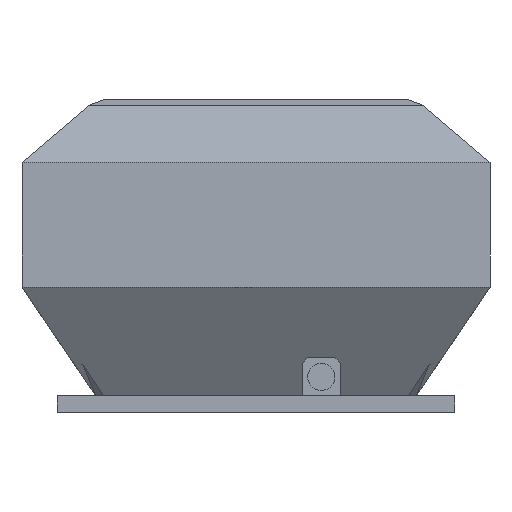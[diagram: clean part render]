
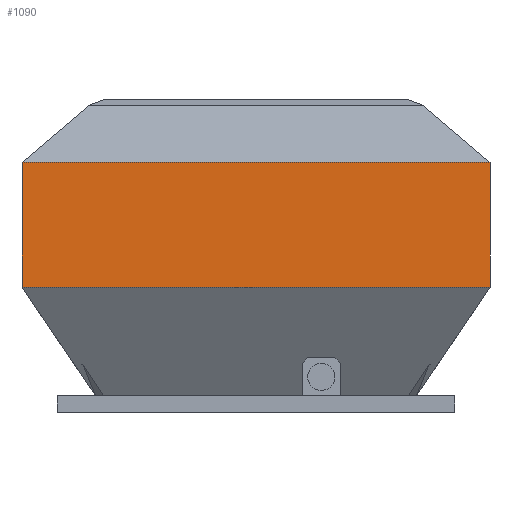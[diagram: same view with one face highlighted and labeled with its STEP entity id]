
A CAD part, left-side view. The second image highlights one B-rep face of the part: STEP entity #1090.
In plain terms, the highlighted planar face has unit normal (-1, 0, 0).
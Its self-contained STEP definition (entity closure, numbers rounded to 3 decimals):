
#121=FACE_OUTER_BOUND('',#206,.T.);
#206=EDGE_LOOP('',(#911,#912,#913,#914));
#291=LINE('',#1730,#406);
#321=LINE('',#1790,#436);
#322=LINE('',#1792,#437);
#323=LINE('',#1793,#438);
#406=VECTOR('',#1372,10.);
#436=VECTOR('',#1430,10.);
#437=VECTOR('',#1433,10.);
#438=VECTOR('',#1434,10.);
#451=VERTEX_POINT('',#1477);
#505=VERTEX_POINT('',#1701);
#513=VERTEX_POINT('',#1729);
#529=VERTEX_POINT('',#1787);
#628=EDGE_CURVE('',#513,#505,#291,.T.);
#658=EDGE_CURVE('',#529,#513,#321,.T.);
#659=EDGE_CURVE('',#451,#529,#322,.T.);
#660=EDGE_CURVE('',#451,#505,#323,.T.);
#911=ORIENTED_EDGE('',*,*,#659,.T.);
#912=ORIENTED_EDGE('',*,*,#658,.T.);
#913=ORIENTED_EDGE('',*,*,#628,.T.);
#914=ORIENTED_EDGE('',*,*,#660,.F.);
#976=PLANE('',#1173);
#1090=ADVANCED_FACE('',(#121),#976,.F.);
#1173=AXIS2_PLACEMENT_3D('',#1791,#1431,#1432);
#1372=DIRECTION('',(0.,-1.,0.));
#1430=DIRECTION('',(0.,0.,-1.));
#1431=DIRECTION('center_axis',(1.,0.,0.));
#1432=DIRECTION('ref_axis',(0.,0.,-1.));
#1433=DIRECTION('',(0.,1.,0.));
#1434=DIRECTION('',(0.,0.,-1.));
#1477=CARTESIAN_POINT('',(-430.,-430.,459.2));
#1701=CARTESIAN_POINT('',(-430.,-430.,229.6));
#1729=CARTESIAN_POINT('',(-430.,430.,229.6));
#1730=CARTESIAN_POINT('',(-430.,430.,229.6));
#1787=CARTESIAN_POINT('',(-430.,430.,459.2));
#1790=CARTESIAN_POINT('',(-430.,430.,459.2));
#1791=CARTESIAN_POINT('Origin',(-430.,430.,459.2));
#1792=CARTESIAN_POINT('',(-430.,430.,459.2));
#1793=CARTESIAN_POINT('',(-430.,-430.,459.2));
